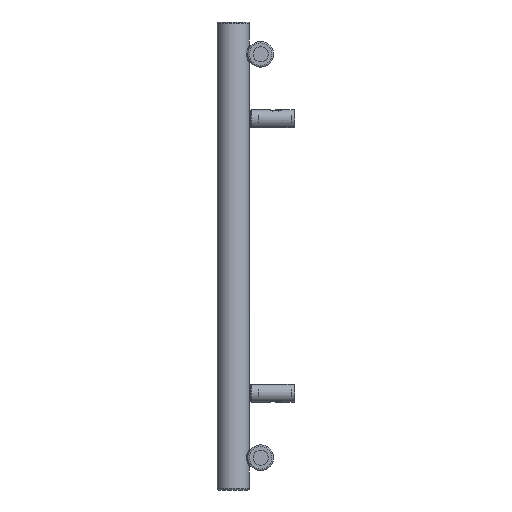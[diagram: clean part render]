
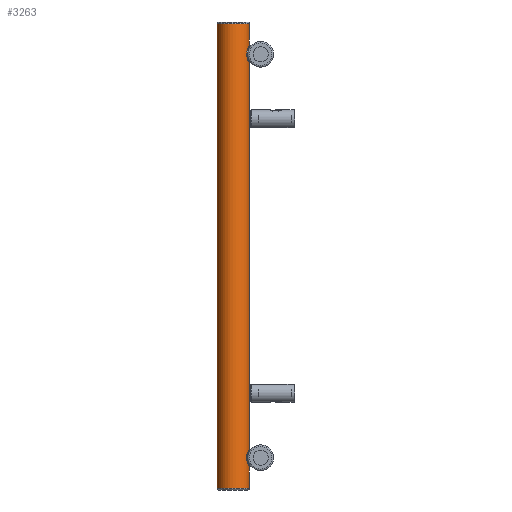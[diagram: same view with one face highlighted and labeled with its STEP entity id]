
A CAD part, left-side view. The second image highlights one B-rep face of the part: STEP entity #3263.
In plain terms, the highlighted cylindrical face has radius 20 mm (diameter 40 mm), a full revolution.
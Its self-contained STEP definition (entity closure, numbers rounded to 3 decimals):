
#248=FACE_BOUND('',#784,.T.);
#249=FACE_BOUND('',#785,.T.);
#295=LINE('',#7556,#382);
#382=VECTOR('',#4073,20.);
#469=CYLINDRICAL_SURFACE('',#3545,20.);
#524=FACE_OUTER_BOUND('',#783,.T.);
#783=EDGE_LOOP('',(#2348,#2349,#2350,#2351,#2352));
#784=EDGE_LOOP('',(#2353));
#785=EDGE_LOOP('',(#2354));
#1064=B_SPLINE_CURVE_WITH_KNOTS('',3,(#7531,#7532,#7533,#7534,#7535,#7536,
#7537,#7538,#7539,#7540,#7541,#7542,#7543,#7544,#7545,#7546,#7547,#7548,
#7549,#7550),.UNSPECIFIED.,.T.,.F.,(4,1,1,1,1,1,1,1,1,1,1,1,1,1,1,1,1,4),
(-5.132,-4.765,-4.399,-4.154,
-3.91,-3.666,-3.421,-3.177,-2.933,
-2.688,-2.199,-1.955,-1.711,-1.466,
-1.1,-0.733,-0.367,0.),
 .UNSPECIFIED.);
#1065=B_SPLINE_CURVE_WITH_KNOTS('',3,(#7560,#7561,#7562,#7563,#7564,#7565,
#7566,#7567,#7568,#7569,#7570,#7571,#7572,#7573,#7574,#7575,#7576,#7577),
 .UNSPECIFIED.,.T.,.F.,(4,1,1,1,1,1,1,1,1,1,1,1,1,1,1,4),(-5.132,
-4.765,-4.399,-3.91,-3.666,-3.421,
-3.177,-2.933,-2.444,-2.199,
-1.955,-1.466,-1.1,-0.733,
-0.367,0.),.UNSPECIFIED.);
#1151=CIRCLE('',#3546,20.);
#1152=CIRCLE('',#3547,20.);
#1153=CIRCLE('',#3548,20.);
#1463=VERTEX_POINT('',#7529);
#1464=VERTEX_POINT('',#7552);
#1465=VERTEX_POINT('',#7553);
#1466=VERTEX_POINT('',#7555);
#1467=VERTEX_POINT('',#7559);
#1815=EDGE_CURVE('',#1463,#1463,#1064,.T.);
#1816=EDGE_CURVE('',#1464,#1465,#1151,.T.);
#1817=EDGE_CURVE('',#1464,#1466,#295,.T.);
#1818=EDGE_CURVE('',#1466,#1466,#1152,.T.);
#1819=EDGE_CURVE('',#1465,#1464,#1153,.T.);
#1820=EDGE_CURVE('',#1467,#1467,#1065,.T.);
#2348=ORIENTED_EDGE('',*,*,#1816,.F.);
#2349=ORIENTED_EDGE('',*,*,#1817,.T.);
#2350=ORIENTED_EDGE('',*,*,#1818,.F.);
#2351=ORIENTED_EDGE('',*,*,#1817,.F.);
#2352=ORIENTED_EDGE('',*,*,#1819,.F.);
#2353=ORIENTED_EDGE('',*,*,#1820,.F.);
#2354=ORIENTED_EDGE('',*,*,#1815,.F.);
#3263=ADVANCED_FACE('',(#524,#248,#249),#469,.T.);
#3545=AXIS2_PLACEMENT_3D('',#7551,#4069,#4070);
#3546=AXIS2_PLACEMENT_3D('',#7554,#4071,#4072);
#3547=AXIS2_PLACEMENT_3D('',#7557,#4074,#4075);
#3548=AXIS2_PLACEMENT_3D('',#7558,#4076,#4077);
#4069=DIRECTION('center_axis',(0.,0.,1.));
#4070=DIRECTION('ref_axis',(-1.,0.,0.));
#4071=DIRECTION('center_axis',(0.,0.,1.));
#4072=DIRECTION('ref_axis',(-1.,0.,0.));
#4073=DIRECTION('',(0.,0.,-1.));
#4074=DIRECTION('center_axis',(0.,0.,-1.));
#4075=DIRECTION('ref_axis',(-1.,0.,0.));
#4076=DIRECTION('center_axis',(0.,0.,1.));
#4077=DIRECTION('ref_axis',(-1.,0.,0.));
#7529=CARTESIAN_POINT('',(-825.,-20.,50.1));
#7531=CARTESIAN_POINT('Ctrl Pts',(-825.,-20.,50.1));
#7532=CARTESIAN_POINT('Ctrl Pts',(-826.611,-20.,50.1));
#7533=CARTESIAN_POINT('Ctrl Pts',(-829.838,-19.597,49.588));
#7534=CARTESIAN_POINT('Ctrl Pts',(-833.411,-18.224,47.307));
#7535=CARTESIAN_POINT('Ctrl Pts',(-835.38,-17.113,44.116));
#7536=CARTESIAN_POINT('Ctrl Pts',(-836.115,-16.626,40.852));
#7537=CARTESIAN_POINT('Ctrl Pts',(-835.87,-16.793,37.475));
#7538=CARTESIAN_POINT('Ctrl Pts',(-834.649,-17.552,34.429));
#7539=CARTESIAN_POINT('Ctrl Pts',(-832.534,-18.591,32.082));
#7540=CARTESIAN_POINT('Ctrl Pts',(-829.761,-19.504,30.58));
#7541=CARTESIAN_POINT('Ctrl Pts',(-825.581,-20.198,29.637));
#7542=CARTESIAN_POINT('Ctrl Pts',(-821.166,-19.825,30.09));
#7543=CARTESIAN_POINT('Ctrl Pts',(-817.467,-18.591,32.082));
#7544=CARTESIAN_POINT('Ctrl Pts',(-815.352,-17.558,34.43));
#7545=CARTESIAN_POINT('Ctrl Pts',(-813.928,-16.665,37.98));
#7546=CARTESIAN_POINT('Ctrl Pts',(-813.923,-16.66,42.599));
#7547=CARTESIAN_POINT('Ctrl Pts',(-816.135,-18.048,47.03));
#7548=CARTESIAN_POINT('Ctrl Pts',(-820.165,-19.6,49.585));
#7549=CARTESIAN_POINT('Ctrl Pts',(-823.389,-20.,50.1));
#7550=CARTESIAN_POINT('Ctrl Pts',(-825.,-20.,50.1));
#7551=CARTESIAN_POINT('Origin',(-825.,0.,0.));
#7552=CARTESIAN_POINT('',(-805.,0.,578.));
#7553=CARTESIAN_POINT('',(-845.,0.,578.));
#7554=CARTESIAN_POINT('Origin',(-825.,0.,578.));
#7555=CARTESIAN_POINT('',(-805.,0.,2.));
#7556=CARTESIAN_POINT('',(-805.,0.,0.));
#7557=CARTESIAN_POINT('Origin',(-825.,0.,2.));
#7558=CARTESIAN_POINT('Origin',(-825.,0.,578.));
#7559=CARTESIAN_POINT('',(-825.,-20.,550.1));
#7560=CARTESIAN_POINT('Ctrl Pts',(-825.,-20.,550.1));
#7561=CARTESIAN_POINT('Ctrl Pts',(-826.611,-20.,550.1));
#7562=CARTESIAN_POINT('Ctrl Pts',(-829.83,-19.611,549.58));
#7563=CARTESIAN_POINT('Ctrl Pts',(-834.319,-17.859,546.751));
#7564=CARTESIAN_POINT('Ctrl Pts',(-836.21,-16.549,541.99));
#7565=CARTESIAN_POINT('Ctrl Pts',(-835.866,-16.8,537.471));
#7566=CARTESIAN_POINT('Ctrl Pts',(-834.651,-17.553,534.431));
#7567=CARTESIAN_POINT('Ctrl Pts',(-832.534,-18.59,532.081));
#7568=CARTESIAN_POINT('Ctrl Pts',(-828.838,-19.82,530.089));
#7569=CARTESIAN_POINT('Ctrl Pts',(-824.416,-20.202,529.636));
#7570=CARTESIAN_POINT('Ctrl Pts',(-820.244,-19.505,530.585));
#7571=CARTESIAN_POINT('Ctrl Pts',(-816.526,-18.282,532.562));
#7572=CARTESIAN_POINT('Ctrl Pts',(-813.913,-16.657,536.802));
#7573=CARTESIAN_POINT('Ctrl Pts',(-813.931,-16.662,542.609));
#7574=CARTESIAN_POINT('Ctrl Pts',(-816.132,-18.046,547.026));
#7575=CARTESIAN_POINT('Ctrl Pts',(-820.167,-19.601,549.588));
#7576=CARTESIAN_POINT('Ctrl Pts',(-823.389,-20.,550.1));
#7577=CARTESIAN_POINT('Ctrl Pts',(-825.,-20.,550.1));
